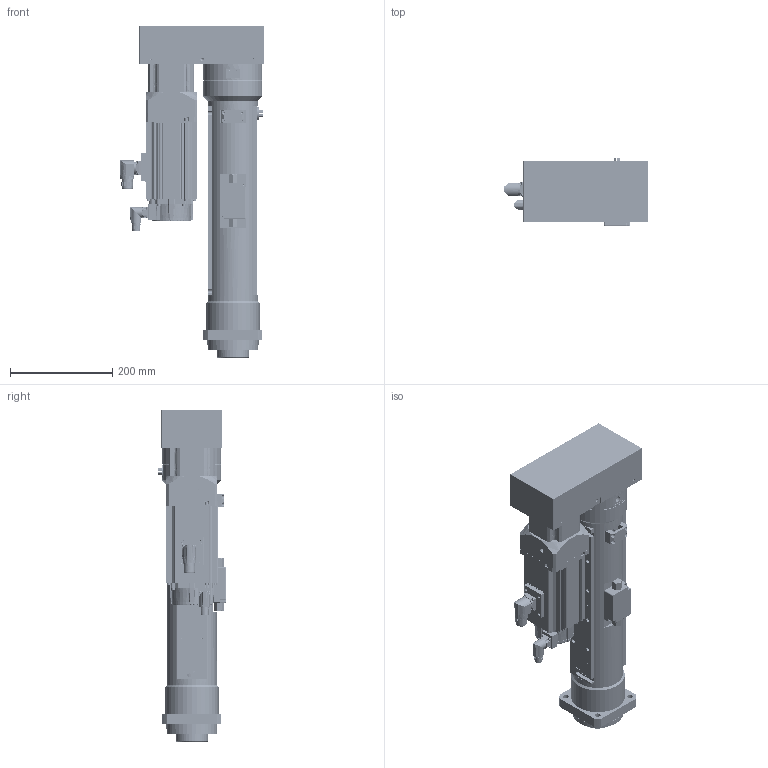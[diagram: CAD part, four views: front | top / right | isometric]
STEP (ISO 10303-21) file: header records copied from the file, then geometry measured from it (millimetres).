
FILE_DESCRIPTION( ('This file contains a STEP AP42 implementation' ,'as created by ZW3D STEP Interface translator.') ,'2;1' );
FILE_NAME( 'OACIS-DC-P020-300-215-A6V400_V20.01.stp' ,'25 715.16 619', (''), ('ZWCAD Software Co.'), 'Version 1.0', 'ZW3D to STEP translator', '' );
FILE_SCHEMA(('AUTOMOTIVE_DESIGN { 1 0 10303 214 1 1 1 1 }'));
Length unit declared in the file: millimetre
Products named in the file (1): 0
Bounding box: 282.8 x 131.5 x 648 mm (x, y, z)
Volume: 7300768.2 mm3; surface area: 1356290.4 mm2
Topology: 46 solids, 66 shells, 3583 faces, 9296 edges, 6090 vertices
Faces by surface type: cylinder 1549, plane 1432, cone 311, bspline 167, torus 104, sphere 20
Full cylindrical faces by diameter (mm): 1.25 x12, 1.6 x8, 2.232 x6, 2.459 x5, 2.75 x4, 2.8 x1, 3.2 x5, 3.242 x10, 3.3 x114, 4 x8, 4.134 x12, 4.2 x4, 4.3 x30, 4.5 x4, 5 x42, 5.5 x9, 6 x8, 6.6 x14, 6.8 x36, 7 x20, 8 x44, 8.4 x8, 8.5 x25, 9 x4, 11 x12, 12 x1, 13.4 x1, 15 x8, 15.5 x2, 15.54 x1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
Entity records: 123192 total; most frequent: CARTESIAN_POINT 28558, DIRECTION 19680, ORIENTED_EDGE 18250, EDGE_CURVE 9166, AXIS2_PLACEMENT_3D 7722, VERTEX_POINT 6015, CIRCLE 4280, EDGE_LOOP 4250
